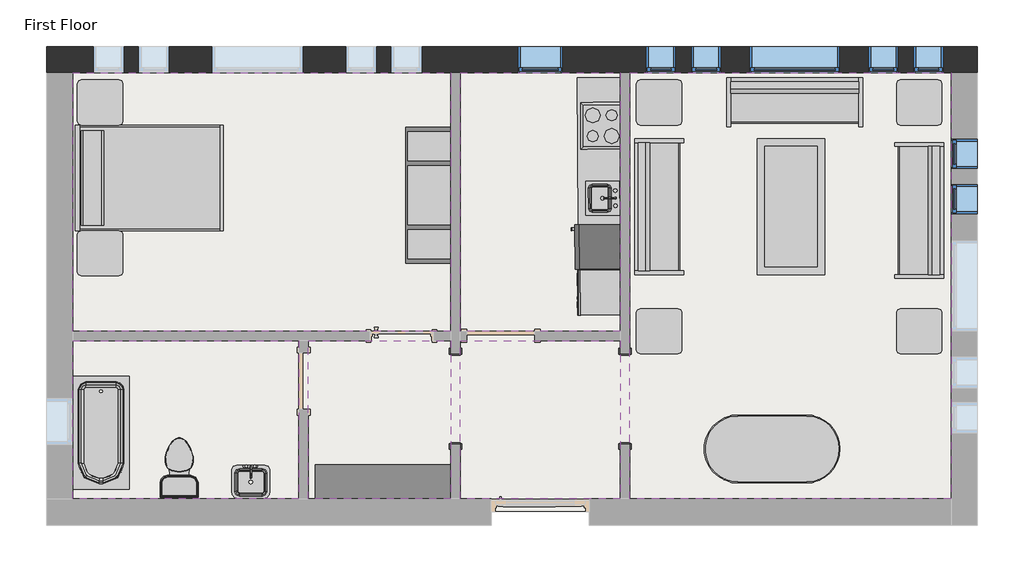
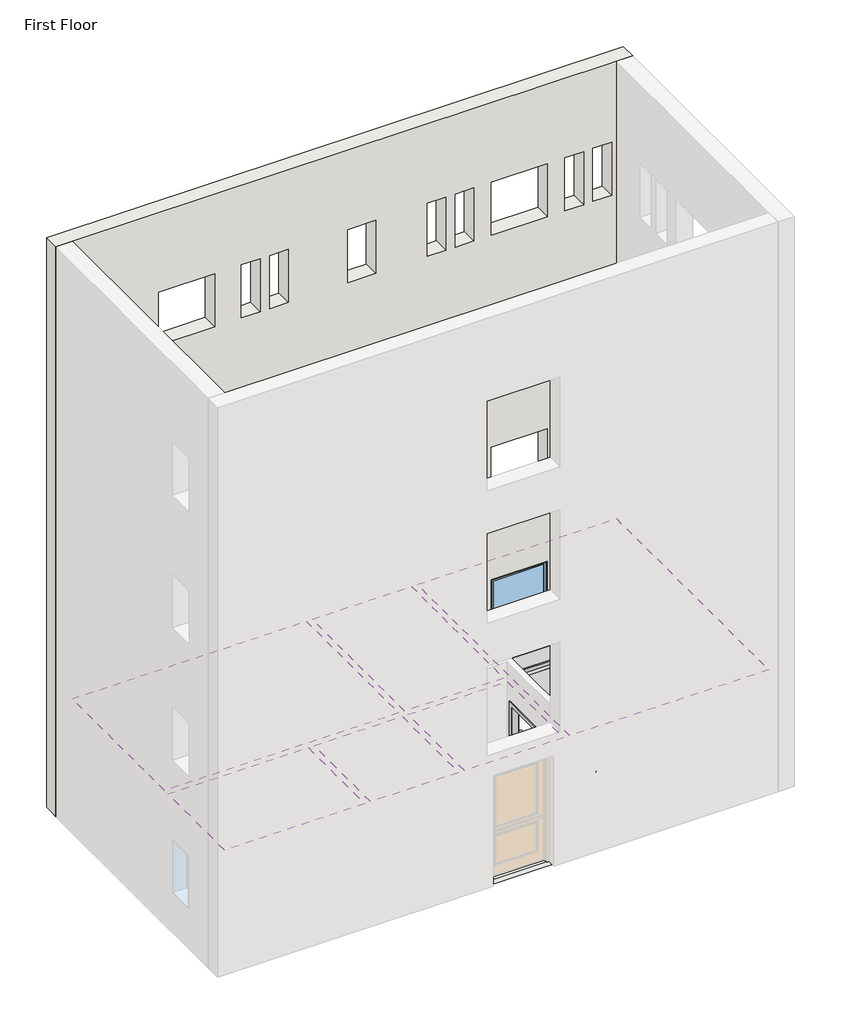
# One storey, part 2 of 2: 15 furniture elements, 8 windows, 6 coverings, 6 proxies, 4 flow terminals, 1 slab, 1 wall.
"""IFC4 building model written with IfcOpenShell, lengths in millimetres."""

from ifc_helpers import new_model, si_unit, frame, origin, place, context, project, spatial, polyline, outline, extrude, faceted_brep, transform, mapped, element, save
from components import proxy_a6faaae8, proxy_45b28599, proxy_a6516e2b, proxy_f44482cc, proxy_c523a7b7, flow_terminal_871c2e40, flow_terminal_62a433f7, toilet_domestic_3d_toilet_domestic_3d_f7549cf7, toilet_domestic_3d_toilet_domestic_3d_183bbd19, tub_rectangular_3d_tub_rectangular_3d_c56944d8, furniture_096e7f55, furniture_dc2eca4b, furniture_7c473f12, furniture_cf0b6580, furniture_a4ffab56, furniture_cd93a443, furniture_2c34a4f9, furniture_3a588284, window_da97879f, window_d61ef850, window_60baf983, window_6eb97611

model = new_model("IFC4")

# Units and contexts
model_context = context("Model", 3, world=origin())
ifc_project = project(units=[si_unit("LENGTHUNIT", "METRE", prefix="MILLI")], contexts=[model_context])

# Site, building, storey
site = spatial("IfcSite", under=ifc_project)
building = spatial("IfcBuilding", under=site)
storey = spatial("IfcBuildingStorey", under=building, Name="First Floor", Elevation=0.0)

# Proxies
placement = place(None, origin())
proxy_shape = proxy_a6faaae8(model_context)
element("IfcBuildingElementProxy", 1, Name="Cook Top-4 Unit2 : 22\" x 20\"", ObjectType="Cook Top-4 Unit2 : 22\" x 20\"", at=placement, inside=storey, context=model_context, shape_type="MappedRepresentation", body=[
    mapped(proxy_shape, transform((2899.8636904, 5211.0114446, 0.0), x_axis=(0.006017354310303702, -0.9999818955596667, 0.0), y_axis=(0.9999818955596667, 0.006017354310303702, 0.0), z_axis=(0.0, 0.0, 1.0))),
])
proxy_2_shape = proxy_45b28599(model_context)
element("IfcBuildingElementProxy", 2, Name="Dishwasher : 24\" x 24\" x 34\"", ObjectType="Dishwasher : 24\" x 24\" x 34\"", at=placement, inside=storey, context=model_context, shape_type="MappedRepresentation", body=[
    mapped(proxy_2_shape, transform((2619.2452805, 3343.7065262, 0.0), x_axis=(0.006017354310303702, -0.9999818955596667, 0.0), y_axis=(0.9999818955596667, 0.006017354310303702, 0.0), z_axis=(0.0, 0.0, 1.0))),
])
proxy_3_shape = proxy_a6516e2b(model_context)
element("IfcBuildingElementProxy", 3, Name="Kitchenette - Medium : 8'6\"", ObjectType="Kitchenette - Medium : 8'6\"", at=placement, inside=storey, context=model_context, shape_type="MappedRepresentation", body=[
    mapped(proxy_3_shape, transform((3208.4428612, 4583.8946262, 0.0), x_axis=(0.006017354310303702, -0.9999818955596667, 0.0), y_axis=(0.9999818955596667, 0.006017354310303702, 0.0), z_axis=(0.0, 0.0, 1.0))),
])
proxy_4_shape = proxy_f44482cc(model_context)
element("IfcBuildingElementProxy", 4, Name="Passage Opening-Cased : 48\" x 84\"", ObjectType="Passage Opening-Cased : 48\" x 84\"", at=placement, inside=storey, context=model_context, shape_type="MappedRepresentation", body=[
    mapped(proxy_4_shape, transform((3208.4428612, 1537.2944757, 0.0), x_axis=(0.0, 1.0, 0.0), y_axis=(-1.0, 0.0, 0.0), z_axis=(0.0, 0.0, 1.0))),
])
element("IfcBuildingElementProxy", 5, Name="Passage Opening-Cased : 48\" x 84\"", ObjectType="Passage Opening-Cased : 48\" x 84\"", at=placement, inside=storey, context=model_context, shape_type="MappedRepresentation", body=[
    mapped(proxy_4_shape, transform((922.4428612, 1520.9171623, 0.0), x_axis=(0.0, -1.0, 0.0), y_axis=(1.0, 0.0, 0.0), z_axis=(0.0, 0.0, 1.0))),
])
proxy_5_shape = proxy_c523a7b7(model_context)
element("IfcBuildingElementProxy", 6, Name="Refrigerator : 24\" x 25\" LH", ObjectType="Refrigerator : 24\" x 25\" LH", at=placement, inside=storey, context=model_context, shape_type="MappedRepresentation", body=[
    mapped(proxy_5_shape, transform((2864.0355668, 3578.8163041, 0.0), x_axis=(0.006017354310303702, -0.9999818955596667, 0.0), y_axis=(0.9999818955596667, 0.006017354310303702, 0.0), z_axis=(0.0, 0.0, 1.0))),
])

# Coverings
element("IfcCovering", 7, ObjectType="GWB on Mtl. Stud", at=placement, inside=storey, context=model_context, shape_type="SweptSolid", body=[
    extrude(outline(polyline([(-4235.3446388, 5924.893319), (858.9428612, 5924.893319), (858.9428612, 2441.918319), (-4235.3446388, 2441.918319), (-4235.3446388, 5924.893319)])), frame((0.0, 0.0, 2590.8), z_axis=(0.0, 0.0, 1.0), x_axis=(1.0, 0.0, 0.0)), (0.0, 0.0, 1.0), 107.95),
])
element("IfcCovering", 8, ObjectType="GWB on Mtl. Stud", at=placement, inside=storey, context=model_context, shape_type="SweptSolid", body=[
    extrude(outline(polyline([(985.9428612, 2441.918319), (985.9428612, 5924.893319), (3144.9428612, 5924.893319), (3144.9428612, 2441.918319), (985.9428612, 2441.918319)])), frame((0.0, 0.0, 2590.8), z_axis=(0.0, 0.0, 1.0), x_axis=(1.0, 0.0, 0.0)), (0.0, 0.0, 1.0), 107.95),
])
element("IfcCovering", 9, ObjectType="GWB on Mtl. Stud", at=placement, inside=storey, context=model_context, shape_type="SweptSolid", body=[
    extrude(outline(polyline([(3271.9428612, 181.318319), (3271.9428612, 5924.893319), (7604.2303612, 5924.893319), (7604.2303612, 181.318319), (3271.9428612, 181.318319)])), frame((0.0, 0.0, 2590.8), z_axis=(0.0, 0.0, 1.0), x_axis=(1.0, 0.0, 0.0)), (0.0, 0.0, 1.0), 107.95),
])
element("IfcCovering", 10, ObjectType="GWB on Mtl. Stud", at=placement, inside=storey, context=model_context, shape_type="SweptSolid", body=[
    extrude(outline(polyline([(-1187.3446388, 2314.918319), (-1187.3446388, 181.318319), (-4235.3446388, 181.318319), (-4235.3446388, 2314.918319), (-1187.3446388, 2314.918319)])), frame((0.0, 0.0, 2590.8), z_axis=(0.0, 0.0, 1.0), x_axis=(1.0, 0.0, 0.0)), (0.0, 0.0, 1.0), 107.95),
])
element("IfcCovering", 11, ObjectType="GWB on Mtl. Stud", at=placement, inside=storey, context=model_context, shape_type="SweptSolid", body=[
    extrude(outline(polyline([(858.9428612, 181.318319), (-1060.3446388, 181.318319), (-1060.3446388, 2314.918319), (858.9428612, 2314.918319), (858.9428612, 181.318319)])), frame((0.0, 0.0, 2590.8), z_axis=(0.0, 0.0, 1.0), x_axis=(1.0, 0.0, 0.0)), (0.0, 0.0, 1.0), 107.95),
])
element("IfcCovering", 12, ObjectType="GWB on Mtl. Stud", at=placement, inside=storey, context=model_context, shape_type="SweptSolid", body=[
    extrude(outline(polyline([(3144.9428612, 181.318319), (985.9428612, 181.318319), (985.9428612, 2314.918319), (3144.9428612, 2314.918319), (3144.9428612, 181.318319)])), frame((0.0, 0.0, 2590.8), z_axis=(0.0, 0.0, 1.0), x_axis=(1.0, 0.0, 0.0)), (0.0, 0.0, 1.0), 107.95),
])

# Flow terminals
flow_terminal_shape = flow_terminal_871c2e40(model_context)
element("IfcFlowTerminal", 13, ObjectType="Sink Kitchen-Island : 18\" x 18\"", at=placement, inside=storey, context=model_context, shape_type="MappedRepresentation", body=[
    mapped(flow_terminal_shape, transform((2903.3082949, 4248.8039924, -14.4), x_axis=(0.006017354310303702, -0.9999818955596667, 0.0), y_axis=(0.9999818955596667, 0.006017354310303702, 0.0), z_axis=(0.0, 0.0, 1.0))),
])
flow_terminal_2_shape = flow_terminal_62a433f7(model_context)
element("IfcFlowTerminal", 14, ObjectType="Sink Vanity-Square : 20\" x 18\"", at=placement, inside=storey, context=model_context, shape_type="MappedRepresentation", body=[
    mapped(flow_terminal_2_shape, transform((-1850.7338794, 458.3729179, 0.0), x_axis=(1.0, 0.0, 0.0), y_axis=(0.0, 1.0, 0.0), z_axis=(0.0, 0.0, 1.0))),
])
toilet_domestic_3d_toilet_domestic_3d_shape = toilet_domestic_3d_toilet_domestic_3d_f7549cf7(model_context)
toilet_domestic_3d_toilet_domestic_3d_2_shape = toilet_domestic_3d_toilet_domestic_3d_183bbd19(model_context)
element("IfcFlowTerminal", 15, ObjectType="Toilet-Domestic-3D : Toilet-Domestic-3D", at=placement, inside=storey, context=model_context, shape_type="MappedRepresentation", body=[
    mapped(toilet_domestic_3d_toilet_domestic_3d_shape, transform((-2800.2446388, 702.018319, 0.0), x_axis=(-1.0, 0.0, 0.0), y_axis=(0.0, -1.0, 0.0), z_axis=(0.0, 0.0, 1.0))),
    mapped(toilet_domestic_3d_toilet_domestic_3d_2_shape, transform((-2800.2446388, 702.018319, 0.0), x_axis=(-1.0, 0.0, 0.0), y_axis=(0.0, -1.0, 0.0), z_axis=(0.0, 0.0, 1.0))),
])
tub_rectangular_3d_tub_rectangular_3d_shape = tub_rectangular_3d_tub_rectangular_3d_c56944d8(model_context)
element("IfcFlowTerminal", 16, ObjectType="Tub-Rectangular-3D : Tub-Rectangular-3D", at=placement, inside=storey, context=model_context, shape_type="MappedRepresentation", body=[
    mapped(tub_rectangular_3d_tub_rectangular_3d_shape, transform((-4411.5571388, 723.3028503, 0.0), x_axis=(0.0, -1.0, 0.0), y_axis=(1.0, 0.0, 0.0), z_axis=(0.0, 0.0, 1.0))),
])

# Furniture
furniture_shape = furniture_096e7f55(model_context)
element("IfcFurniture", 17, ObjectType="Bed-Shaker : Double 56\" x 78\"", at=placement, inside=storey, context=model_context, shape_type="MappedRepresentation", body=[
    mapped(furniture_shape, transform((-4190.1896154, 4526.4534268, 0.0), x_axis=(-0.00030117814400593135, 0.9999999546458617, 0.0), y_axis=(-0.9999999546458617, -0.00030117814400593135, 0.0), z_axis=(0.0, 0.0, 1.0))),
])
furniture_2_shape = furniture_dc2eca4b(model_context)
element("IfcFurniture", 18, ObjectType="Counter Top w Sink Hole : 24\" Depth", at=placement, inside=storey, context=model_context, shape_type="MappedRepresentation", body=[
    mapped(furniture_2_shape, transform((3207.9843388, 4660.0932466, -14.4), x_axis=(0.006017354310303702, -0.9999818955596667, 0.0), y_axis=(0.9999818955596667, 0.006017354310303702, 0.0), z_axis=(0.0, 0.0, 1.0))),
])
furniture_3_shape = furniture_7c473f12(model_context)
element("IfcFurniture", 19, ObjectType="Dresser : 72\" x 60\" x 18\"", at=placement, inside=storey, context=model_context, shape_type="MappedRepresentation", body=[
    mapped(furniture_3_shape, transform((213.736121, 773.0812731, 0.0), x_axis=(1.0, 0.0, 0.0), y_axis=(0.0, 1.0, 0.0), z_axis=(0.0, 0.0, 1.0))),
])
furniture_4_shape = furniture_cf0b6580(model_context)
element("IfcFurniture", 20, ObjectType="Entertainment Center : 72\" x 72\" x 24\"", at=placement, inside=storey, context=model_context, shape_type="MappedRepresentation", body=[
    mapped(furniture_4_shape, transform((147.7428612, 4272.305819, 0.0), x_axis=(0.0, 1.0, 0.0), y_axis=(-1.0, 0.0, 0.0), z_axis=(0.0, 0.0, 1.0))),
])
furniture_5_shape = furniture_a4ffab56(model_context)
element("IfcFurniture", 21, ObjectType="Sofa : 72\"", at=placement, inside=storey, context=model_context, shape_type="MappedRepresentation", body=[
    mapped(furniture_5_shape, transform((5424.0723694, 5377.3466921, 0.0), x_axis=(1.0, 0.0, 0.0), y_axis=(0.0, 1.0, 0.0), z_axis=(0.0, 0.0, 1.0))),
])
element("IfcFurniture", 22, ObjectType="Sofa : 72\"", at=placement, inside=storey, context=model_context, shape_type="MappedRepresentation", body=[
    mapped(furniture_5_shape, transform((3811.7969596, 4049.5353272, 0.0), x_axis=(0.0, 1.0000000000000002, 0.0), y_axis=(-1.0000000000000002, 0.0, 0.0), z_axis=(0.0, 0.0, 1.0))),
])
element("IfcFurniture", 23, ObjectType="Sofa : 72\"", at=placement, inside=storey, context=model_context, shape_type="MappedRepresentation", body=[
    mapped(furniture_5_shape, transform((7024.6887628, 4139.4763108, 0.0), x_axis=(0.0, -1.0, 0.0), y_axis=(1.0, 0.0, 0.0), z_axis=(0.0, 0.0, 1.0))),
])
furniture_6_shape = furniture_cd93a443(model_context)
element("IfcFurniture", 24, ObjectType="Table-Coffee : 36\" x 72\" x 18\"", at=placement, inside=storey, context=model_context, shape_type="MappedRepresentation", body=[
    mapped(furniture_6_shape, transform((5538.853939, 4101.6400523, 0.0), x_axis=(0.0, 1.0, 0.0), y_axis=(-1.0, 0.0, 0.0), z_axis=(0.0, 0.0, 1.0))),
])
furniture_7_shape = furniture_2c34a4f9(model_context)
element("IfcFurniture", 25, ObjectType="Table-Dining Oval : 36\" x 72\"", at=placement, inside=storey, context=model_context, shape_type="MappedRepresentation", body=[
    mapped(furniture_7_shape, transform((5591.4625333, 1212.5166797, 0.0), x_axis=(1.0, 0.0, 0.0), y_axis=(0.0, 1.0, 0.0), z_axis=(0.0, 0.0, 1.0))),
])
furniture_8_shape = furniture_3a588284(model_context)
element("IfcFurniture", 26, ObjectType="Table-End : 24\" x 24\"", at=placement, inside=storey, context=model_context, shape_type="MappedRepresentation", body=[
    mapped(furniture_8_shape, transform((-4175.5782691, 5371.1007905, 0.0), x_axis=(1.0, 0.0, 0.0), y_axis=(0.0, 1.0, 0.0), z_axis=(0.0, 0.0, 1.0))),
])
element("IfcFurniture", 27, ObjectType="Table-End : 24\" x 24\"", at=placement, inside=storey, context=model_context, shape_type="MappedRepresentation", body=[
    mapped(furniture_8_shape, transform((-4175.5782691, 3339.0089188, 0.0), x_axis=(1.0, 0.0, 0.0), y_axis=(0.0, 1.0, 0.0), z_axis=(0.0, 0.0, 1.0))),
])
element("IfcFurniture", 28, ObjectType="Table-End : 24\" x 24\"", at=placement, inside=storey, context=model_context, shape_type="MappedRepresentation", body=[
    mapped(furniture_8_shape, transform((3357.1092309, 5371.1007905, 0.0), x_axis=(1.0, 0.0, 0.0), y_axis=(0.0, 1.0, 0.0), z_axis=(0.0, 0.0, 1.0))),
])
element("IfcFurniture", 29, ObjectType="Table-End : 24\" x 24\"", at=placement, inside=storey, context=model_context, shape_type="MappedRepresentation", body=[
    mapped(furniture_8_shape, transform((3357.1092309, 2289.518319, 0.0), x_axis=(1.0, 0.0, 0.0), y_axis=(0.0, 1.0, 0.0), z_axis=(0.0, 0.0, 1.0))),
])
element("IfcFurniture", 30, ObjectType="Table-End : 24\" x 24\"", at=placement, inside=storey, context=model_context, shape_type="MappedRepresentation", body=[
    mapped(furniture_8_shape, transform((6862.3092309, 2289.518319, 0.0), x_axis=(1.0, 0.0, 0.0), y_axis=(0.0, 1.0, 0.0), z_axis=(0.0, 0.0, 1.0))),
])
element("IfcFurniture", 31, ObjectType="Table-End : 24\" x 24\"", at=placement, inside=storey, context=model_context, shape_type="MappedRepresentation", body=[
    mapped(furniture_8_shape, transform((6862.3092309, 5371.1007905, 0.0), x_axis=(1.0, 0.0, 0.0), y_axis=(0.0, 1.0, 0.0), z_axis=(0.0, 0.0, 1.0))),
])

# Slab
element("IfcSlab", 32, ObjectType="LW Concrete on Metal Deck", at=placement, inside=storey, context=model_context, shape_type="SweptSolid", body=[
    extrude(outline(polyline([(7769.3303612, 6089.993319), (7769.3303612, 16.218319), (-4400.4446388, 16.218319), (-4400.4446388, 6089.993319), (7769.3303612, 6089.993319)])), frame((0.0, 0.0, -104.775), z_axis=(0.0, 0.0, 1.0), x_axis=(1.0, 0.0, 0.0)), (0.0, 0.0, 1.0), 104.775),
])

# Wall
element("IfcWall", 33, ObjectType="Exterior - Brick on Mtl. Stud", at=placement, inside=storey, context=model_context, shape_type="Brep", body=[
    faceted_brep([(-4587.7696388, 5924.893319, 0.0), (-4400.4446388, 5924.893319, 0.0), (-4235.3446388, 5924.893319, 0.0), (858.9428612, 5924.893319, 0.0), (985.9428612, 5924.893319, 0.0), (3144.9428612, 5924.893319, 0.0), (3271.9428612, 5924.893319, 0.0), (7604.2303612, 5924.893319, 0.0), (7769.3303612, 5924.893319, 0.0), (7956.6553612, 5924.893319, 0.0), (7956.6553612, 5924.893319, 13106.4), (7604.2303612, 5924.893319, 13106.4), (-4235.3446388, 5924.893319, 13106.4), (-4587.7696388, 5924.893319, 13106.4), (1760.6428612, 5924.893319, 2133.6), (2370.2428612, 5924.893319, 2133.6), (2370.2428612, 5924.893319, 914.4), (1760.6428612, 5924.893319, 914.4), (-2354.1571388, 5924.893319, 2133.6), (-1134.9571388, 5924.893319, 2133.6), (-1134.9571388, 5924.893319, 914.4), (-2354.1571388, 5924.893319, 914.4), (4884.8428612, 5924.893319, 2133.6), (6104.0428612, 5924.893319, 2133.6), (6104.0428612, 5924.893319, 914.4), (4884.8428612, 5924.893319, 914.4), (-3954.3571388, 5924.893319, 2133.6), (-3547.9571388, 5924.893319, 2133.6), (-3547.9571388, 5924.893319, 914.4), (-3954.3571388, 5924.893319, 914.4), (-3344.7571388, 5924.893319, 2133.6), (-2938.3571388, 5924.893319, 2133.6), (-2938.3571388, 5924.893319, 914.4), (-3344.7571388, 5924.893319, 914.4), (-144.3571388, 5924.893319, 2133.6), (-144.3571388, 5924.893319, 914.4), (-550.7571388, 5924.893319, 914.4), (-550.7571388, 5924.893319, 2133.6), (465.2428612, 5924.893319, 2133.6), (465.2428612, 5924.893319, 914.4), (58.8428612, 5924.893319, 914.4), (58.8428612, 5924.893319, 2133.6), (4097.4428612, 5924.893319, 2133.6), (4503.8428612, 5924.893319, 2133.6), (4503.8428612, 5924.893319, 914.4), (4097.4428612, 5924.893319, 914.4), (3487.8428612, 5924.893319, 2133.6), (3894.2428612, 5924.893319, 2133.6), (3894.2428612, 5924.893319, 914.4), (3487.8428612, 5924.893319, 914.4), (6891.4428612, 5924.893319, 2133.6), (6891.4428612, 5924.893319, 914.4), (6485.0428612, 5924.893319, 914.4), (6485.0428612, 5924.893319, 2133.6), (7501.0428612, 5924.893319, 2133.6), (7501.0428612, 5924.893319, 914.4), (7094.6428612, 5924.893319, 914.4), (7094.6428612, 5924.893319, 2133.6), (6891.4428612, 5924.893319, 11277.6), (6891.4428612, 5924.893319, 10058.4), (6485.0428612, 5924.893319, 10058.4), (6485.0428612, 5924.893319, 11277.6), (7501.0428612, 5924.893319, 11277.6), (7501.0428612, 5924.893319, 10058.4), (7094.6428612, 5924.893319, 10058.4), (7094.6428612, 5924.893319, 11277.6), (4097.4428612, 5924.893319, 11277.6), (4503.8428612, 5924.893319, 11277.6), (4503.8428612, 5924.893319, 10058.4), (4097.4428612, 5924.893319, 10058.4), (3487.8428612, 5924.893319, 11277.6), (3894.2428612, 5924.893319, 11277.6), (3894.2428612, 5924.893319, 10058.4), (3487.8428612, 5924.893319, 10058.4), (-144.3571388, 5924.893319, 11277.6), (-144.3571388, 5924.893319, 10058.4), (-550.7571388, 5924.893319, 10058.4), (-550.7571388, 5924.893319, 11277.6), (465.2428612, 5924.893319, 11277.6), (465.2428612, 5924.893319, 10058.4), (58.8428612, 5924.893319, 10058.4), (58.8428612, 5924.893319, 11277.6), (-3344.7571388, 5924.893319, 11277.6), (-2938.3571388, 5924.893319, 11277.6), (-2938.3571388, 5924.893319, 10058.4), (-3344.7571388, 5924.893319, 10058.4), (-3954.3571388, 5924.893319, 11277.6), (-3547.9571388, 5924.893319, 11277.6), (-3547.9571388, 5924.893319, 10058.4), (-3954.3571388, 5924.893319, 10058.4), (4884.8428612, 5924.893319, 11277.6), (6104.0428612, 5924.893319, 11277.6), (6104.0428612, 5924.893319, 10058.4), (4884.8428612, 5924.893319, 10058.4), (-2354.1571388, 5924.893319, 11277.6), (-1134.9571388, 5924.893319, 11277.6), (-1134.9571388, 5924.893319, 10058.4), (-2354.1571388, 5924.893319, 10058.4), (1760.6428612, 5924.893319, 11277.6), (2370.2428612, 5924.893319, 11277.6), (2370.2428612, 5924.893319, 10058.4), (1760.6428612, 5924.893319, 10058.4), (6891.4428612, 5924.893319, 5181.6), (6891.4428612, 5924.893319, 3962.4), (6485.0428612, 5924.893319, 3962.4), (6485.0428612, 5924.893319, 5181.6), (7501.0428612, 5924.893319, 5181.6), (7501.0428612, 5924.893319, 3962.4), (7094.6428612, 5924.893319, 3962.4), (7094.6428612, 5924.893319, 5181.6), (4097.4428612, 5924.893319, 5181.6), (4503.8428612, 5924.893319, 5181.6), (4503.8428612, 5924.893319, 3962.4), (4097.4428612, 5924.893319, 3962.4), (3487.8428612, 5924.893319, 5181.6), (3894.2428612, 5924.893319, 5181.6), (3894.2428612, 5924.893319, 3962.4), (3487.8428612, 5924.893319, 3962.4), (-144.3571388, 5924.893319, 5181.6), (-144.3571388, 5924.893319, 3962.4), (-550.7571388, 5924.893319, 3962.4), (-550.7571388, 5924.893319, 5181.6), (465.2428612, 5924.893319, 5181.6), (465.2428612, 5924.893319, 3962.4), (58.8428612, 5924.893319, 3962.4), (58.8428612, 5924.893319, 5181.6), (-3344.7571388, 5924.893319, 5181.6), (-2938.3571388, 5924.893319, 5181.6), (-2938.3571388, 5924.893319, 3962.4), (-3344.7571388, 5924.893319, 3962.4), (-3954.3571388, 5924.893319, 5181.6), (-3547.9571388, 5924.893319, 5181.6), (-3547.9571388, 5924.893319, 3962.4), (-3954.3571388, 5924.893319, 3962.4), (4884.8428612, 5924.893319, 5181.6), (6104.0428612, 5924.893319, 5181.6), (6104.0428612, 5924.893319, 3962.4), (4884.8428612, 5924.893319, 3962.4), (-2354.1571388, 5924.893319, 5181.6), (-1134.9571388, 5924.893319, 5181.6), (-1134.9571388, 5924.893319, 3962.4), (-2354.1571388, 5924.893319, 3962.4), (1760.6428612, 5924.893319, 5181.6), (2370.2428612, 5924.893319, 5181.6), (2370.2428612, 5924.893319, 3962.4), (1760.6428612, 5924.893319, 3962.4), (6891.4428612, 5924.893319, 8229.6), (6891.4428612, 5924.893319, 7010.4), (6485.0428612, 5924.893319, 7010.4), (6485.0428612, 5924.893319, 8229.6), (7501.0428612, 5924.893319, 8229.6), (7501.0428612, 5924.893319, 7010.4), (7094.6428612, 5924.893319, 7010.4), (7094.6428612, 5924.893319, 8229.6), (4097.4428612, 5924.893319, 8229.6), (4503.8428612, 5924.893319, 8229.6), (4503.8428612, 5924.893319, 7010.4), (4097.4428612, 5924.893319, 7010.4), (3487.8428612, 5924.893319, 8229.6), (3894.2428612, 5924.893319, 8229.6), (3894.2428612, 5924.893319, 7010.4), (3487.8428612, 5924.893319, 7010.4), (-144.3571388, 5924.893319, 8229.6), (-144.3571388, 5924.893319, 7010.4), (-550.7571388, 5924.893319, 7010.4), (-550.7571388, 5924.893319, 8229.6), (465.2428612, 5924.893319, 8229.6), (465.2428612, 5924.893319, 7010.4), (58.8428612, 5924.893319, 7010.4), (58.8428612, 5924.893319, 8229.6), (-3344.7571388, 5924.893319, 8229.6), (-2938.3571388, 5924.893319, 8229.6), (-2938.3571388, 5924.893319, 7010.4), (-3344.7571388, 5924.893319, 7010.4), (-3954.3571388, 5924.893319, 8229.6), (-3547.9571388, 5924.893319, 8229.6), (-3547.9571388, 5924.893319, 7010.4), (-3954.3571388, 5924.893319, 7010.4), (4884.8428612, 5924.893319, 8229.6), (6104.0428612, 5924.893319, 8229.6), (6104.0428612, 5924.893319, 7010.4), (4884.8428612, 5924.893319, 7010.4), (-2354.1571388, 5924.893319, 8229.6), (-1134.9571388, 5924.893319, 8229.6), (-1134.9571388, 5924.893319, 7010.4), (-2354.1571388, 5924.893319, 7010.4), (1760.6428612, 5924.893319, 8229.6), (2370.2428612, 5924.893319, 8229.6), (2370.2428612, 5924.893319, 7010.4), (1760.6428612, 5924.893319, 7010.4), (-4587.7696388, 6277.318319, 0.0), (-4587.7696388, 6277.318319, 13106.4), (7956.6553612, 6277.318319, 13106.4), (7956.6553612, 6277.318319, 0.0), (7769.3303612, 6277.318319, 0.0), (-4400.4446388, 6277.318319, 0.0), (1760.6428612, 6277.318319, 2133.6), (1760.6428612, 6277.318319, 914.4), (2370.2428612, 6277.318319, 914.4), (2370.2428612, 6277.318319, 2133.6), (-2354.1571388, 6277.318319, 2133.6), (-2354.1571388, 6277.318319, 914.4), (-1134.9571388, 6277.318319, 914.4), (-1134.9571388, 6277.318319, 2133.6), (4884.8428612, 6277.318319, 2133.6), (4884.8428612, 6277.318319, 914.4), (6104.0428612, 6277.318319, 914.4), (6104.0428612, 6277.318319, 2133.6), (-3954.3571388, 6277.318319, 2133.6), (-3954.3571388, 6277.318319, 914.4), (-3547.9571388, 6277.318319, 914.4), (-3547.9571388, 6277.318319, 2133.6), (-3344.7571388, 6277.318319, 2133.6), (-3344.7571388, 6277.318319, 914.4), (-2938.3571388, 6277.318319, 914.4), (-2938.3571388, 6277.318319, 2133.6), (-144.3571388, 6277.318319, 2133.6), (-550.7571388, 6277.318319, 2133.6), (-550.7571388, 6277.318319, 914.4), (-144.3571388, 6277.318319, 914.4), (465.2428612, 6277.318319, 2133.6), (58.8428612, 6277.318319, 2133.6), (58.8428612, 6277.318319, 914.4), (465.2428612, 6277.318319, 914.4), (4097.4428612, 6277.318319, 2133.6), (4097.4428612, 6277.318319, 914.4), (4503.8428612, 6277.318319, 914.4), (4503.8428612, 6277.318319, 2133.6), (3487.8428612, 6277.318319, 2133.6), (3487.8428612, 6277.318319, 914.4), (3894.2428612, 6277.318319, 914.4), (3894.2428612, 6277.318319, 2133.6), (6891.4428612, 6277.318319, 2133.6), (6485.0428612, 6277.318319, 2133.6), (6485.0428612, 6277.318319, 914.4), (6891.4428612, 6277.318319, 914.4), (7501.0428612, 6277.318319, 2133.6), (7094.6428612, 6277.318319, 2133.6), (7094.6428612, 6277.318319, 914.4), (7501.0428612, 6277.318319, 914.4), (6891.4428612, 6277.318319, 11277.6), (6485.0428612, 6277.318319, 11277.6), (6485.0428612, 6277.318319, 10058.4), (6891.4428612, 6277.318319, 10058.4), (7501.0428612, 6277.318319, 11277.6), (7094.6428612, 6277.318319, 11277.6), (7094.6428612, 6277.318319, 10058.4), (7501.0428612, 6277.318319, 10058.4), (4097.4428612, 6277.318319, 11277.6), (4097.4428612, 6277.318319, 10058.4), (4503.8428612, 6277.318319, 10058.4), (4503.8428612, 6277.318319, 11277.6), (3487.8428612, 6277.318319, 11277.6), (3487.8428612, 6277.318319, 10058.4), (3894.2428612, 6277.318319, 10058.4), (3894.2428612, 6277.318319, 11277.6), (-144.3571388, 6277.318319, 11277.6), (-550.7571388, 6277.318319, 11277.6), (-550.7571388, 6277.318319, 10058.4), (-144.3571388, 6277.318319, 10058.4), (465.2428612, 6277.318319, 11277.6), (58.8428612, 6277.318319, 11277.6), (58.8428612, 6277.318319, 10058.4), (465.2428612, 6277.318319, 10058.4), (-3344.7571388, 6277.318319, 11277.6), (-3344.7571388, 6277.318319, 10058.4), (-2938.3571388, 6277.318319, 10058.4), (-2938.3571388, 6277.318319, 11277.6), (-3954.3571388, 6277.318319, 11277.6), (-3954.3571388, 6277.318319, 10058.4), (-3547.9571388, 6277.318319, 10058.4), (-3547.9571388, 6277.318319, 11277.6), (4884.8428612, 6277.318319, 11277.6), (4884.8428612, 6277.318319, 10058.4), (6104.0428612, 6277.318319, 10058.4), (6104.0428612, 6277.318319, 11277.6), (-2354.1571388, 6277.318319, 11277.6), (-2354.1571388, 6277.318319, 10058.4), (-1134.9571388, 6277.318319, 10058.4), (-1134.9571388, 6277.318319, 11277.6), (1760.6428612, 6277.318319, 11277.6), (1760.6428612, 6277.318319, 10058.4), (2370.2428612, 6277.318319, 10058.4), (2370.2428612, 6277.318319, 11277.6), (6891.4428612, 6277.318319, 5181.6), (6485.0428612, 6277.318319, 5181.6), (6485.0428612, 6277.318319, 3962.4), (6891.4428612, 6277.318319, 3962.4), (7501.0428612, 6277.318319, 5181.6), (7094.6428612, 6277.318319, 5181.6), (7094.6428612, 6277.318319, 3962.4), (7501.0428612, 6277.318319, 3962.4), (4097.4428612, 6277.318319, 5181.6), (4097.4428612, 6277.318319, 3962.4), (4503.8428612, 6277.318319, 3962.4), (4503.8428612, 6277.318319, 5181.6), (3487.8428612, 6277.318319, 5181.6), (3487.8428612, 6277.318319, 3962.4), (3894.2428612, 6277.318319, 3962.4), (3894.2428612, 6277.318319, 5181.6), (-144.3571388, 6277.318319, 5181.6), (-550.7571388, 6277.318319, 5181.6), (-550.7571388, 6277.318319, 3962.4), (-144.3571388, 6277.318319, 3962.4), (465.2428612, 6277.318319, 5181.6), (58.8428612, 6277.318319, 5181.6), (58.8428612, 6277.318319, 3962.4), (465.2428612, 6277.318319, 3962.4), (-3344.7571388, 6277.318319, 5181.6), (-3344.7571388, 6277.318319, 3962.4), (-2938.3571388, 6277.318319, 3962.4), (-2938.3571388, 6277.318319, 5181.6), (-3954.3571388, 6277.318319, 5181.6), (-3954.3571388, 6277.318319, 3962.4), (-3547.9571388, 6277.318319, 3962.4), (-3547.9571388, 6277.318319, 5181.6), (4884.8428612, 6277.318319, 5181.6), (4884.8428612, 6277.318319, 3962.4), (6104.0428612, 6277.318319, 3962.4), (6104.0428612, 6277.318319, 5181.6), (-2354.1571388, 6277.318319, 5181.6), (-2354.1571388, 6277.318319, 3962.4), (-1134.9571388, 6277.318319, 3962.4), (-1134.9571388, 6277.318319, 5181.6), (1760.6428612, 6277.318319, 5181.6), (1760.6428612, 6277.318319, 3962.4), (2370.2428612, 6277.318319, 3962.4), (2370.2428612, 6277.318319, 5181.6), (6891.4428612, 6277.318319, 8229.6), (6485.0428612, 6277.318319, 8229.6), (6485.0428612, 6277.318319, 7010.4), (6891.4428612, 6277.318319, 7010.4), (7501.0428612, 6277.318319, 8229.6), (7094.6428612, 6277.318319, 8229.6), (7094.6428612, 6277.318319, 7010.4), (7501.0428612, 6277.318319, 7010.4), (4097.4428612, 6277.318319, 8229.6), (4097.4428612, 6277.318319, 7010.4), (4503.8428612, 6277.318319, 7010.4), (4503.8428612, 6277.318319, 8229.6), (3487.8428612, 6277.318319, 8229.6), (3487.8428612, 6277.318319, 7010.4), (3894.2428612, 6277.318319, 7010.4), (3894.2428612, 6277.318319, 8229.6), (-144.3571388, 6277.318319, 8229.6), (-550.7571388, 6277.318319, 8229.6), (-550.7571388, 6277.318319, 7010.4), (-144.3571388, 6277.318319, 7010.4), (465.2428612, 6277.318319, 8229.6), (58.8428612, 6277.318319, 8229.6), (58.8428612, 6277.318319, 7010.4), (465.2428612, 6277.318319, 7010.4), (-3344.7571388, 6277.318319, 8229.6), (-3344.7571388, 6277.318319, 7010.4), (-2938.3571388, 6277.318319, 7010.4), (-2938.3571388, 6277.318319, 8229.6), (-3954.3571388, 6277.318319, 8229.6), (-3954.3571388, 6277.318319, 7010.4), (-3547.9571388, 6277.318319, 7010.4), (-3547.9571388, 6277.318319, 8229.6), (4884.8428612, 6277.318319, 8229.6), (4884.8428612, 6277.318319, 7010.4), (6104.0428612, 6277.318319, 7010.4), (6104.0428612, 6277.318319, 8229.6), (-2354.1571388, 6277.318319, 8229.6), (-2354.1571388, 6277.318319, 7010.4), (-1134.9571388, 6277.318319, 7010.4), (-1134.9571388, 6277.318319, 8229.6), (1760.6428612, 6277.318319, 8229.6), (1760.6428612, 6277.318319, 7010.4), (2370.2428612, 6277.318319, 7010.4), (2370.2428612, 6277.318319, 8229.6), (7956.6553612, 6089.993319, 0.0), (-4587.7696388, 6089.993319, 0.0), (-4400.4446388, 6089.993319, 0.0), (7769.3303612, 6089.993319, 0.0)], [[[0, 1, 2, 3, 4, 5, 6, 7, 8, 9, 10, 11, 12, 13], [14, 15, 16, 17], [18, 19, 20, 21], [22, 23, 24, 25], [26, 27, 28, 29], [30, 31, 32, 33], [34, 35, 36, 37], [38, 39, 40, 41], [42, 43, 44, 45], [46, 47, 48, 49], [50, 51, 52, 53], [54, 55, 56, 57], [58, 59, 60, 61], [62, 63, 64, 65], [66, 67, 68, 69], [70, 71, 72, 73], [74, 75, 76, 77], [78, 79, 80, 81], [82, 83, 84, 85], [86, 87, 88, 89], [90, 91, 92, 93], [94, 95, 96, 97], [98, 99, 100, 101], [102, 103, 104, 105], [106, 107, 108, 109], [110, 111, 112, 113], [114, 115, 116, 117], [118, 119, 120, 121], [122, 123, 124, 125], [126, 127, 128, 129], [130, 131, 132, 133], [134, 135, 136, 137], [138, 139, 140, 141], [142, 143, 144, 145], [146, 147, 148, 149], [150, 151, 152, 153], [154, 155, 156, 157], [158, 159, 160, 161], [162, 163, 164, 165], [166, 167, 168, 169], [170, 171, 172, 173], [174, 175, 176, 177], [178, 179, 180, 181], [182, 183, 184, 185], [186, 187, 188, 189]], [[190, 191, 192, 193, 194, 195], [196, 197, 198, 199], [200, 201, 202, 203], [204, 205, 206, 207], [208, 209, 210, 211], [212, 213, 214, 215], [216, 217, 218, 219], [220, 221, 222, 223], [224, 225, 226, 227], [228, 229, 230, 231], [232, 233, 234, 235], [236, 237, 238, 239], [240, 241, 242, 243], [244, 245, 246, 247], [248, 249, 250, 251], [252, 253, 254, 255], [256, 257, 258, 259], [260, 261, 262, 263], [264, 265, 266, 267], [268, 269, 270, 271], [272, 273, 274, 275], [276, 277, 278, 279], [280, 281, 282, 283], [284, 285, 286, 287], [288, 289, 290, 291], [292, 293, 294, 295], [296, 297, 298, 299], [300, 301, 302, 303], [304, 305, 306, 307], [308, 309, 310, 311], [312, 313, 314, 315], [316, 317, 318, 319], [320, 321, 322, 323], [324, 325, 326, 327], [328, 329, 330, 331], [332, 333, 334, 335], [336, 337, 338, 339], [340, 341, 342, 343], [344, 345, 346, 347], [348, 349, 350, 351], [352, 353, 354, 355], [356, 357, 358, 359], [360, 361, 362, 363], [364, 365, 366, 367], [368, 369, 370, 371]], [[13, 12, 11, 10, 192, 191]], [[10, 9, 372, 193, 192]], [[0, 13, 191, 190, 373]], [[197, 196, 14, 17]], [[198, 197, 17, 16]], [[199, 198, 16, 15]], [[196, 199, 15, 14]], [[201, 200, 18, 21]], [[202, 201, 21, 20]], [[203, 202, 20, 19]], [[200, 203, 19, 18]], [[205, 204, 22, 25]], [[206, 205, 25, 24]], [[207, 206, 24, 23]], [[204, 207, 23, 22]], [[209, 208, 26, 29]], [[210, 209, 29, 28]], [[211, 210, 28, 27]], [[208, 211, 27, 26]], [[213, 212, 30, 33]], [[214, 213, 33, 32]], [[215, 214, 32, 31]], [[212, 215, 31, 30]], [[35, 34, 216, 219]], [[36, 35, 219, 218]], [[37, 36, 218, 217]], [[34, 37, 217, 216]], [[39, 38, 220, 223]], [[40, 39, 223, 222]], [[41, 40, 222, 221]], [[38, 41, 221, 220]], [[225, 224, 42, 45]], [[226, 225, 45, 44]], [[227, 226, 44, 43]], [[224, 227, 43, 42]], [[229, 228, 46, 49]], [[230, 229, 49, 48]], [[231, 230, 48, 47]], [[228, 231, 47, 46]], [[51, 50, 232, 235]], [[52, 51, 235, 234]], [[53, 52, 234, 233]], [[50, 53, 233, 232]], [[55, 54, 236, 239]], [[56, 55, 239, 238]], [[57, 56, 238, 237]], [[54, 57, 237, 236]], [[1, 0, 373, 374]], [[373, 190, 195, 374]], [[9, 8, 375, 372]], [[195, 194, 375, 374]], [[194, 193, 372, 375]], [[8, 7, 6, 5, 4, 3, 2, 1, 374, 375]], [[59, 58, 240, 243]], [[60, 59, 243, 242]], [[61, 60, 242, 241]], [[58, 61, 241, 240]], [[63, 62, 244, 247]], [[64, 63, 247, 246]], [[65, 64, 246, 245]], [[62, 65, 245, 244]], [[249, 248, 66, 69]], [[250, 249, 69, 68]], [[251, 250, 68, 67]], [[248, 251, 67, 66]], [[253, 252, 70, 73]], [[254, 253, 73, 72]], [[255, 254, 72, 71]], [[252, 255, 71, 70]], [[75, 74, 256, 259]], [[76, 75, 259, 258]], [[77, 76, 258, 257]], [[74, 77, 257, 256]], [[79, 78, 260, 263]], [[80, 79, 263, 262]], [[81, 80, 262, 261]], [[78, 81, 261, 260]], [[265, 264, 82, 85]], [[266, 265, 85, 84]], [[267, 266, 84, 83]], [[264, 267, 83, 82]], [[269, 268, 86, 89]], [[270, 269, 89, 88]], [[271, 270, 88, 87]], [[268, 271, 87, 86]], [[273, 272, 90, 93]], [[274, 273, 93, 92]], [[275, 274, 92, 91]], [[272, 275, 91, 90]], [[277, 276, 94, 97]], [[278, 277, 97, 96]], [[279, 278, 96, 95]], [[276, 279, 95, 94]], [[281, 280, 98, 101]], [[282, 281, 101, 100]], [[283, 282, 100, 99]], [[280, 283, 99, 98]], [[103, 102, 284, 287]], [[104, 103, 287, 286]], [[105, 104, 286, 285]], [[102, 105, 285, 284]], [[107, 106, 288, 291]], [[108, 107, 291, 290]], [[109, 108, 290, 289]], [[106, 109, 289, 288]], [[293, 292, 110, 113]], [[294, 293, 113, 112]], [[295, 294, 112, 111]], [[292, 295, 111, 110]], [[297, 296, 114, 117]], [[298, 297, 117, 116]], [[299, 298, 116, 115]], [[296, 299, 115, 114]], [[119, 118, 300, 303]], [[120, 119, 303, 302]], [[121, 120, 302, 301]], [[118, 121, 301, 300]], [[123, 122, 304, 307]], [[124, 123, 307, 306]], [[125, 124, 306, 305]], [[122, 125, 305, 304]], [[309, 308, 126, 129]], [[310, 309, 129, 128]], [[311, 310, 128, 127]], [[308, 311, 127, 126]], [[313, 312, 130, 133]], [[314, 313, 133, 132]], [[315, 314, 132, 131]], [[312, 315, 131, 130]], [[317, 316, 134, 137]], [[318, 317, 137, 136]], [[319, 318, 136, 135]], [[316, 319, 135, 134]], [[321, 320, 138, 141]], [[322, 321, 141, 140]], [[323, 322, 140, 139]], [[320, 323, 139, 138]], [[325, 324, 142, 145]], [[326, 325, 145, 144]], [[327, 326, 144, 143]], [[324, 327, 143, 142]], [[147, 146, 328, 331]], [[148, 147, 331, 330]], [[149, 148, 330, 329]], [[146, 149, 329, 328]], [[151, 150, 332, 335]], [[152, 151, 335, 334]], [[153, 152, 334, 333]], [[150, 153, 333, 332]], [[337, 336, 154, 157]], [[338, 337, 157, 156]], [[339, 338, 156, 155]], [[336, 339, 155, 154]], [[341, 340, 158, 161]], [[342, 341, 161, 160]], [[343, 342, 160, 159]], [[340, 343, 159, 158]], [[163, 162, 344, 347]], [[164, 163, 347, 346]], [[165, 164, 346, 345]], [[162, 165, 345, 344]], [[167, 166, 348, 351]], [[168, 167, 351, 350]], [[169, 168, 350, 349]], [[166, 169, 349, 348]], [[353, 352, 170, 173]], [[354, 353, 173, 172]], [[355, 354, 172, 171]], [[352, 355, 171, 170]], [[357, 356, 174, 177]], [[358, 357, 177, 176]], [[359, 358, 176, 175]], [[356, 359, 175, 174]], [[361, 360, 178, 181]], [[362, 361, 181, 180]], [[363, 362, 180, 179]], [[360, 363, 179, 178]], [[365, 364, 182, 185]], [[366, 365, 185, 184]], [[367, 366, 184, 183]], [[364, 367, 183, 182]], [[369, 368, 186, 189]], [[370, 369, 189, 188]], [[371, 370, 188, 187]], [[368, 371, 187, 186]]]),
])

# Windows
window_shape = window_da97879f(model_context)
element("IfcWindow", 34, ObjectType="Fixed : 16\" x 48\"", at=placement, inside=storey, context=model_context, shape_type="MappedRepresentation", body=[
    mapped(window_shape, transform((3652.9428612, 6101.105819, 0.0), x_axis=(-1.0, 0.0, 0.0), y_axis=(0.0, -1.0, 0.0), z_axis=(0.0, 0.0, 1.0))),
])
element("IfcWindow", 35, ObjectType="Fixed : 16\" x 48\"", at=placement, inside=storey, context=model_context, shape_type="MappedRepresentation", body=[
    mapped(window_shape, transform((4262.5428612, 6101.105819, 0.0), x_axis=(-1.0, 0.0, 0.0), y_axis=(0.0, -1.0, 0.0), z_axis=(0.0, 0.0, 1.0))),
])
element("IfcWindow", 36, ObjectType="Fixed : 16\" x 48\"", at=placement, inside=storey, context=model_context, shape_type="MappedRepresentation", body=[
    mapped(window_shape, transform((7780.4428612, 4869.205819, 0.0), x_axis=(0.0, 1.0, 0.0), y_axis=(-1.0, 0.0, 0.0), z_axis=(0.0, 0.0, 1.0))),
])
element("IfcWindow", 37, ObjectType="Fixed : 16\" x 48\"", at=placement, inside=storey, context=model_context, shape_type="MappedRepresentation", body=[
    mapped(window_shape, transform((7780.4428612, 4259.605819, 0.0), x_axis=(0.0, 1.0, 0.0), y_axis=(-1.0, 0.0, 0.0), z_axis=(0.0, 0.0, 1.0))),
])
window_2_shape = window_d61ef850(model_context)
element("IfcWindow", 38, ObjectType="Fixed : 16\" x 48\"", at=placement, inside=storey, context=model_context, shape_type="MappedRepresentation", body=[
    mapped(window_2_shape, transform((7335.9428612, 6101.105819, 0.0), x_axis=(1.0, 0.0, 0.0), y_axis=(0.0, 1.0, 0.0), z_axis=(0.0, 0.0, 1.0))),
])
element("IfcWindow", 39, ObjectType="Fixed : 16\" x 48\"", at=placement, inside=storey, context=model_context, shape_type="MappedRepresentation", body=[
    mapped(window_2_shape, transform((6726.3428612, 6101.105819, 0.0), x_axis=(1.0, 0.0, 0.0), y_axis=(0.0, 1.0, 0.0), z_axis=(0.0, 0.0, 1.0))),
])
window_3_shape = window_60baf983(model_context)
element("IfcWindow", 40, ObjectType="Fixed : 24\" x 48\"", at=placement, inside=storey, context=model_context, shape_type="MappedRepresentation", body=[
    mapped(window_3_shape, transform((2027.3428612, 6101.105819, 0.0), x_axis=(-1.0, 0.0, 0.0), y_axis=(0.0, -1.0, 0.0), z_axis=(0.0, 0.0, 1.0))),
])
window_4_shape = window_6eb97611(model_context)
element("IfcWindow", 41, ObjectType="Fixed : 48\" x 48\"", at=placement, inside=storey, context=model_context, shape_type="MappedRepresentation", body=[
    mapped(window_4_shape, transform((5456.3428612, 6101.105819, 0.0), x_axis=(-1.0, 0.0, 0.0), y_axis=(0.0, -1.0, 0.0), z_axis=(0.0, 0.0, 1.0))),
])

save(model, "model.ifc")
